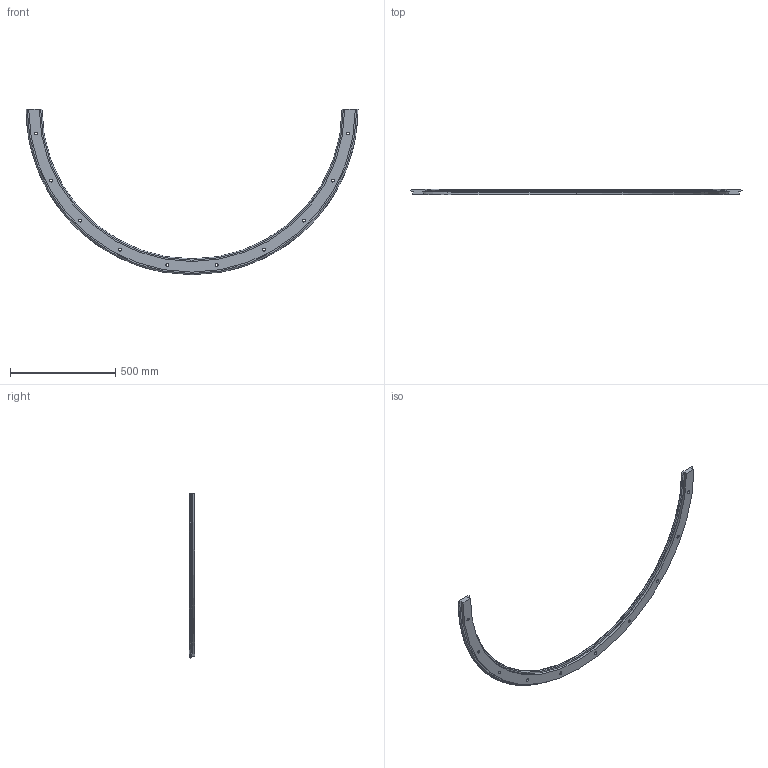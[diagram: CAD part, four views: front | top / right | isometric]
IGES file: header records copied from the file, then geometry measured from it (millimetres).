
Start section: 3D InterOp IGES (v. 2020 1.0.1), Spatial Corp. Copyright (c) 1999-2017.
Global section: file name: r76_1501_r180.igs; native system: Spatial Corp.; preprocessor: 3D InterOp ACIS/IGES; author: TraceParts; organization: TraceParts S.A.; date: 20220624.073433; units: millimetre
Bounding box: 1576.6 x 24 x 786.3 mm (x, y, z)
Surface area: 490315.7 mm2 (no closed solid volume)
Topology: 0 solids, 0 shells, 82 faces, 408 edges, 408 vertices
Faces by surface type: revolution 64, extrusion 18
